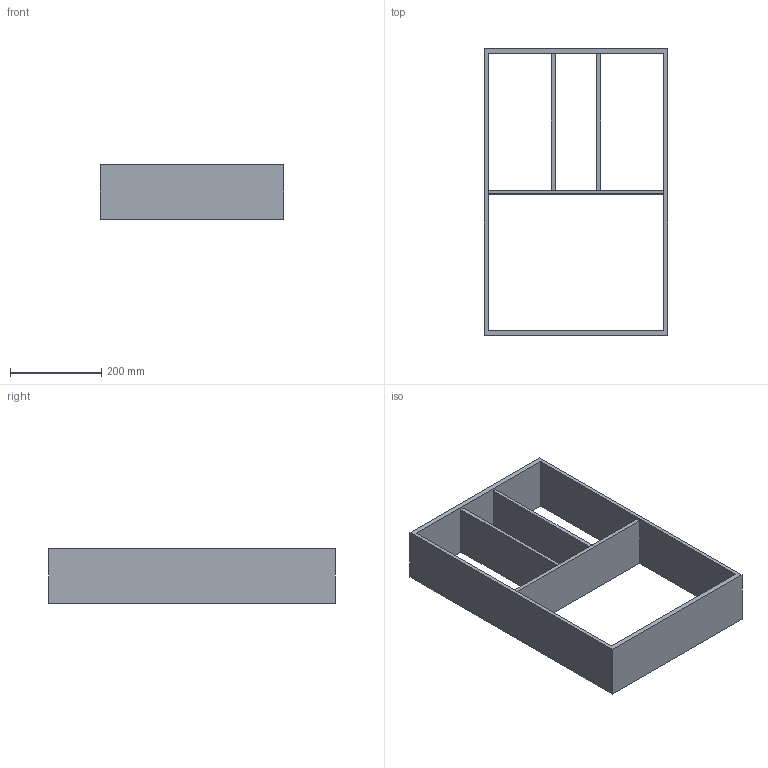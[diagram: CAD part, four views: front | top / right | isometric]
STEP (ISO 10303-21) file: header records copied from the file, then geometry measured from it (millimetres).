
FILE_DESCRIPTION (( 'STEP AP214' ), '1' );
FILE_NAME ('Vario Multi H120 NL650_B500_19 mm_Alu-Buche.step', '2010-10-08T09:47:50', ( 'grass' ), ( '' ), 'SwSTEP 2.0', 'SolidWorks 2010', '' );
FILE_SCHEMA (( 'AUTOMOTIVE_DESIGN' ));
Length unit declared in the file: millimetre
Products named in the file (1): Vario Multi H120 NL650_B500_19 mm_Alu-Buche
Bounding box: 402 x 629 x 120 mm (x, y, z)
Volume: 3125364.4 mm3; surface area: 757832.2 mm2
Topology: 1 solids, 1 shells, 22 faces, 60 edges, 40 vertices
Faces by surface type: plane 22
Entity records: 734 total; most frequent: CARTESIAN_POINT 123, ORIENTED_EDGE 120, DIRECTION 106, VECTOR 60, LINE 60, EDGE_CURVE 60, VERTEX_POINT 40, EDGE_LOOP 30
